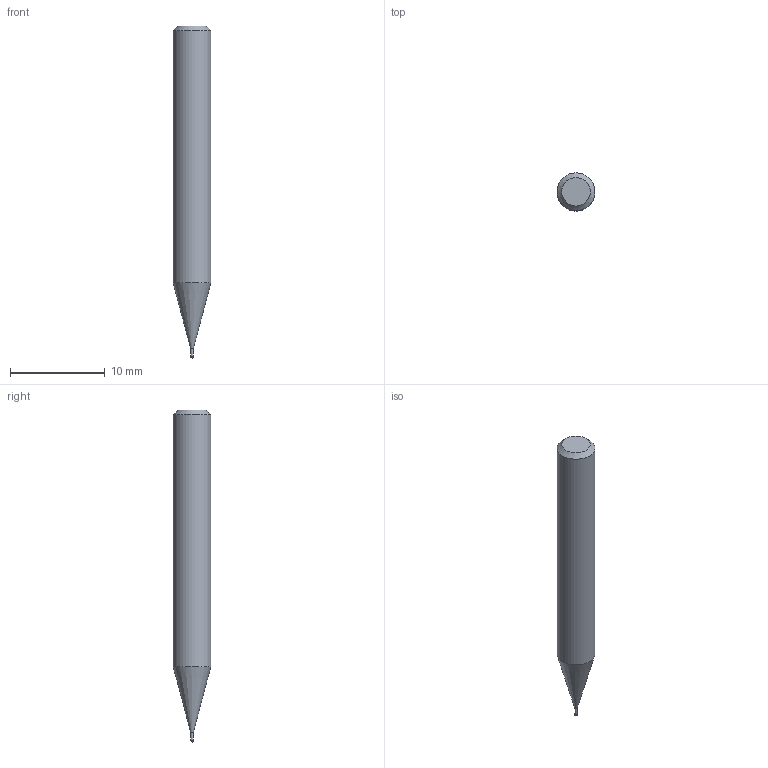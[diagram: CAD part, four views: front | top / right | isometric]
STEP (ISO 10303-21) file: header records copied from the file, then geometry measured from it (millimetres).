
FILE_DESCRIPTION((''),'2;1');
FILE_NAME('C:\Users\nsx150\AppData\Local\Temp\Mastercam 2021\QT8KEW0Y7J\TEMP.step','2021-04-23T11:20:25',(''),(''),'STEP Write','Mastercam 2021 ... CNC Software, Inc.','');
FILE_SCHEMA(('AUTOMOTIVE_DESIGN'));
Length unit declared in the file: millimetre
Products named in the file (1): None
Bounding box: 4 x 4 x 35 mm (x, y, z)
Volume: 369.9 mm3; surface area: 397.9 mm2
Topology: 2 solids, 2 shells, 9 faces, 14 edges, 8 vertices
Faces by surface type: plane 3, cylinder 3, cone 2, sphere 1
Full cylindrical faces by diameter (mm): 0.28 x1, 0.3 x1, 4 x1
Entity records: 211 total; most frequent: DIRECTION 36, CARTESIAN_POINT 25, AXIS2_PLACEMENT_3D 18, ORIENTED_EDGE 14, EDGE_LOOP 14, STYLED_ITEM 12, ADVANCED_FACE 9, FACE_BOUND 8
